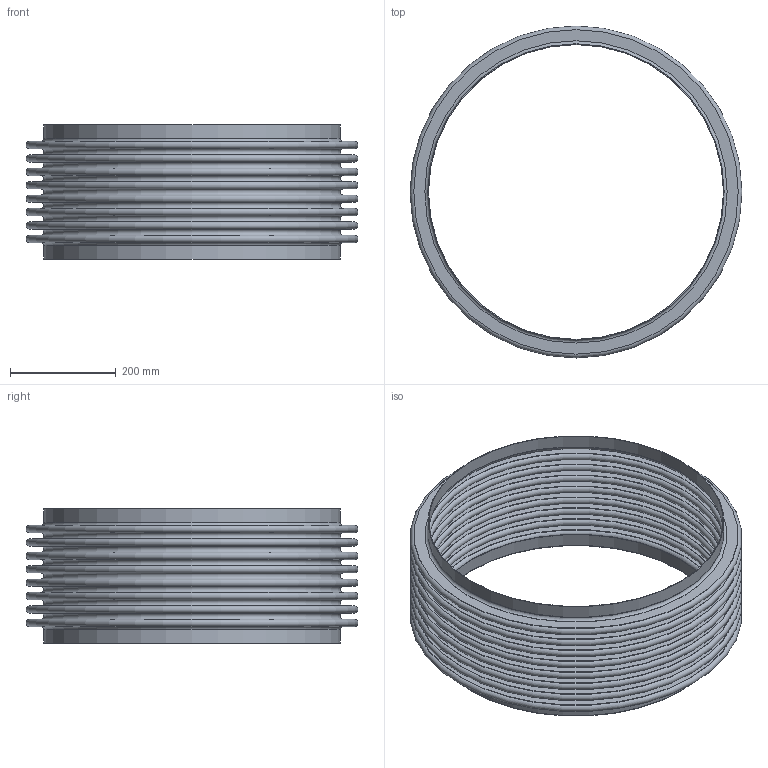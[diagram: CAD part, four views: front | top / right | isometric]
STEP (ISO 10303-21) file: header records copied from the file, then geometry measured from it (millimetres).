
FILE_DESCRIPTION(/* description */ (''),/* implementation_level */ '2;1');
FILE_NAME(/* name */ 'US-22-8-85S.stp',/* time_stamp */ '2026-07-21T11:18:17-05:00',/* author */ ('linda'),/* organization */ (''),/* preprocessor_version */ 'ST-DEVELOPER v20.1',/* originating_system */ 'Autodesk Inventor 2026',/* authorisation */ '');
FILE_SCHEMA (('AUTOMOTIVE_DESIGN { 1 0 10303 214 3 1 1 }'));
Length unit declared in the file: inch
Products named in the file (1): Part3
Bounding box: 628.65 x 628.65 x 254 mm (x, y, z)
Volume: 1599137.3 mm3; surface area: 2636126.7 mm2
Topology: 3 solids, 3 shells, 76 faces, 114 edges, 77 vertices
Faces by surface type: plane 38, torus 34, cylinder 4
Full cylindrical faces by diameter (mm): 558.8 x2, 561.238 x2
Entity records: 1899 total; most frequent: DIRECTION 378, CARTESIAN_POINT 268, ORIENTED_EDGE 228, AXIS2_PLACEMENT_3D 187, EDGE_LOOP 114, EDGE_CURVE 114, CIRCLE 110, STYLED_ITEM 79
